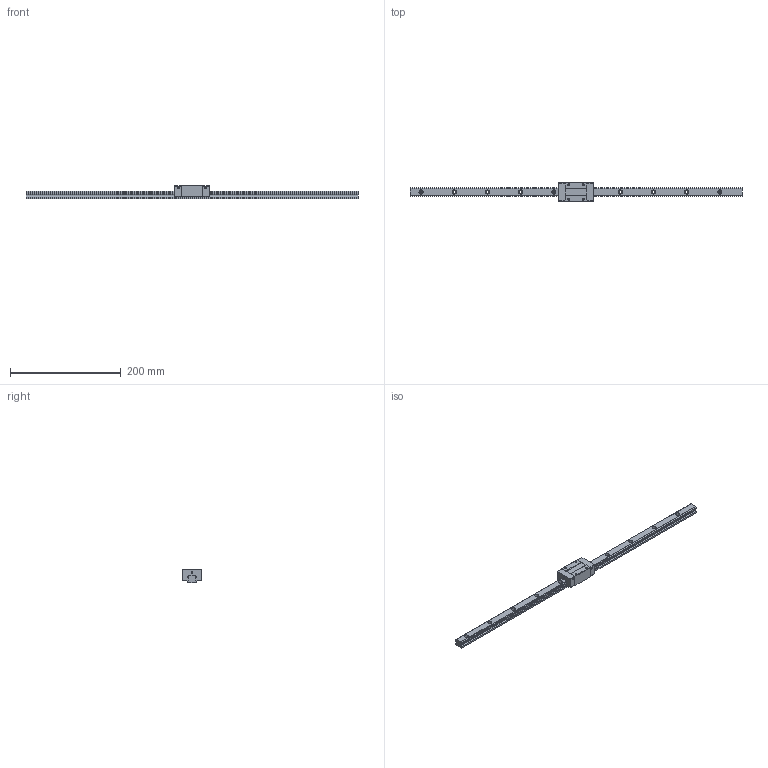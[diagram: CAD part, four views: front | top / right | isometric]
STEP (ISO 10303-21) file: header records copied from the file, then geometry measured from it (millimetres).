
FILE_DESCRIPTION (( 'STEP AP203' ), '1' );
FILE_NAME ('TRS15VN-SU.STEP', '2024-06-26T02:36:46', ( '' ), ( '' ), 'SwSTEP 2.0', 'SolidWorks 2022', '' );
FILE_SCHEMA (( 'CONFIG_CONTROL_DESIGN' ));
Length unit declared in the file: millimetre
Products named in the file (1): TRS15VN-SU
Bounding box: 600 x 34 x 24 mm (x, y, z)
Volume: 135255.3 mm3; surface area: 46697.6 mm2
Topology: 2 solids, 2 shells, 204 faces, 528 edges, 340 vertices
Faces by surface type: cylinder 96, plane 92, cone 16
Entity records: 6319 total; most frequent: DIRECTION 1130, CARTESIAN_POINT 1065, ORIENTED_EDGE 1040, EDGE_CURVE 520, AXIS2_PLACEMENT_3D 405, VERTEX_POINT 340, VECTOR 320, LINE 320
